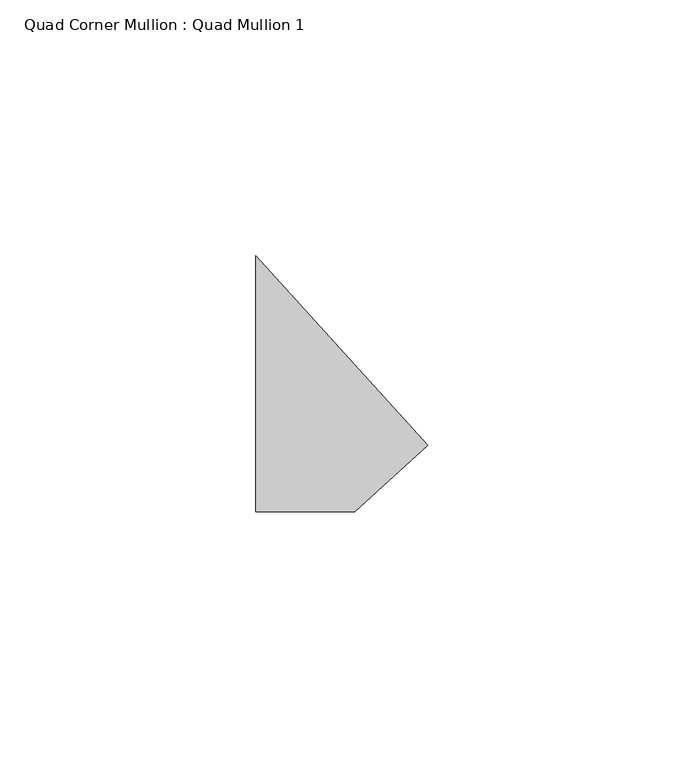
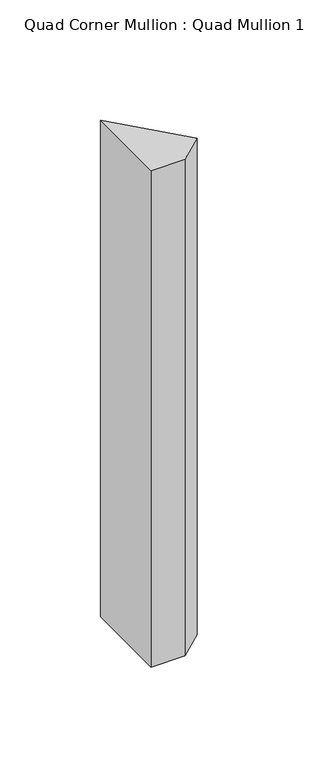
"""IFC4 building model written with IfcOpenShell, lengths in millimetres: member geometry, Quad Corner Mullion : Quad Mullion 1."""

from ifc_helpers import new_model, si_unit, frame, origin, place, context, project, spatial, polyline, outline, extrude, source, transform, mapped, element, save


def quad_corner_mullion_quad_mullion_1_d0e6aad1(model_context):
    return source(origin(), model_context, "Body", "SweptSolid", [
        extrude(outline(polyline([(23.9566159, -12.0146065), (9.6576505, -25.0), (-9.6576505, -25.0), (-9.6576505, 25.0), (23.9566159, -12.0146065)])), frame((0.0, 0.0, -300.0), z_axis=(0.0, 0.0, 1.0), x_axis=(1.0, 0.0, 0.0)), (0.0, 0.0, 1.0), 300.0),
    ])


if __name__ == "__main__":
    model = new_model("IFC4")
    model_context = context("Model", 3, world=origin())
    ifc_project = project(units=[si_unit("LENGTHUNIT", "METRE", prefix="MILLI")], contexts=[model_context])
    site = spatial("IfcSite", under=ifc_project)
    building = spatial("IfcBuilding", under=site)
    placement = place(None, origin())
    quad_corner_mullion_quad_mullion_1_shape = quad_corner_mullion_quad_mullion_1_d0e6aad1(model_context)
    element("IfcMember", 1, ObjectType="Quad Corner Mullion : Quad Mullion 1", at=placement, inside=building, context=model_context, shape_type="MappedRepresentation", body=[
        mapped(quad_corner_mullion_quad_mullion_1_shape, transform((0.0, 0.0, 0.0), x_axis=(1.0, 0.0, 0.0), y_axis=(0.0, 1.0, 0.0), z_axis=(0.0, 0.0, 1.0))),
    ])
    save(model, "model.ifc")
